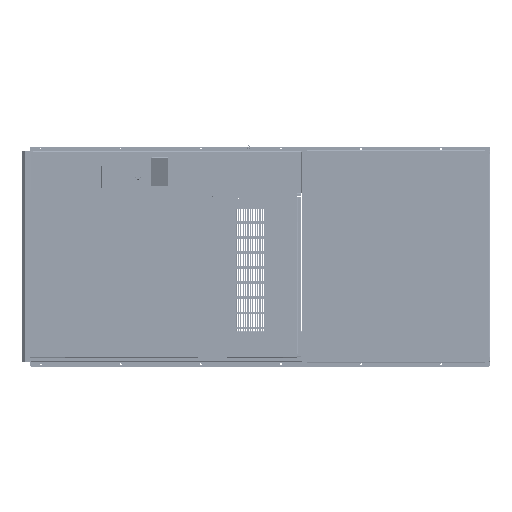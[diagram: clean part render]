
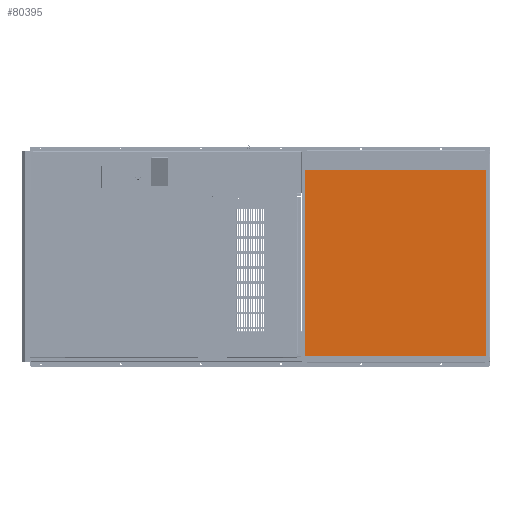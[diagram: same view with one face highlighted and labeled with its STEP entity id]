
A CAD part, left-side view. The second image highlights one B-rep face of the part: STEP entity #80395.
In plain terms, the highlighted planar face has unit normal (-1, 0, 0) as drawn and (0, 0, 1) by its records, which use the part's own axes.
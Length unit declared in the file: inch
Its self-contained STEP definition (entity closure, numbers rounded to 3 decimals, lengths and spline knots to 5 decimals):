
#6522 = ORIENTED_EDGE ( 'NONE', *, *, #22248, .T. ) ;
#14162 = CARTESIAN_POINT ( 'NONE',  ( -6.8619, 42.36062, 0. ) ) ;
#17598 = CARTESIAN_POINT ( 'NONE',  ( -24.9334, 5.28762, 0. ) ) ;
#21811 = CARTESIAN_POINT ( 'NONE',  ( -6.8619, 5.28762, 0. ) ) ;
#22248 = EDGE_CURVE ( 'NONE', #215706, #76082, #42152, .T. ) ;
#22320 = ORIENTED_EDGE ( 'NONE', *, *, #265540, .T. ) ;
#39192 = VERTEX_POINT ( 'NONE', #76867 ) ;
#42152 = LINE ( 'NONE', #14162, #81327 ) ;
#43323 = EDGE_LOOP ( 'NONE', ( #6522, #79475, #261229, #22320 ) ) ;
#63504 = CARTESIAN_POINT ( 'NONE',  ( 11.2096, 42.36062, 0. ) ) ;
#76082 = VERTEX_POINT ( 'NONE', #107429 ) ;
#76867 = CARTESIAN_POINT ( 'NONE',  ( 11.2096, 5.28762, 0. ) ) ;
#78832 = AXIS2_PLACEMENT_3D ( 'NONE', #63504, #87134, #178670 ) ;
#79475 = ORIENTED_EDGE ( 'NONE', *, *, #103033, .T. ) ;
#80395 = ADVANCED_FACE ( 'NONE', ( #245190 ), #265890, .T. ) ;
#81327 = VECTOR ( 'NONE', #222353, 39.37008 ) ;
#87134 = DIRECTION ( 'NONE',  ( 0., 0., 1. ) ) ;
#98898 = EDGE_CURVE ( 'NONE', #120511, #39192, #178287, .T. ) ;
#103033 = EDGE_CURVE ( 'NONE', #76082, #120511, #275167, .T. ) ;
#107429 = CARTESIAN_POINT ( 'NONE',  ( -24.9334, 42.36062, 0. ) ) ;
#120511 = VERTEX_POINT ( 'NONE', #17598 ) ;
#127156 = VECTOR ( 'NONE', #278434, 39.37008 ) ;
#145092 = CARTESIAN_POINT ( 'NONE',  ( -24.9334, 23.82412, 0. ) ) ;
#145466 = CARTESIAN_POINT ( 'NONE',  ( 11.2096, 23.82412, 0. ) ) ;
#163937 = VECTOR ( 'NONE', #268402, 39.37008 ) ;
#164318 = DIRECTION ( 'NONE',  ( 0., -1., 0. ) ) ;
#178287 = LINE ( 'NONE', #21811, #163937 ) ;
#178670 = DIRECTION ( 'NONE',  ( -1., 0., 0. ) ) ;
#210476 = LINE ( 'NONE', #145466, #127156 ) ;
#215706 = VERTEX_POINT ( 'NONE', #283219 ) ;
#222353 = DIRECTION ( 'NONE',  ( -1., 0., 0. ) ) ;
#245190 = FACE_OUTER_BOUND ( 'NONE', #43323, .T. ) ;
#261229 = ORIENTED_EDGE ( 'NONE', *, *, #98898, .T. ) ;
#265540 = EDGE_CURVE ( 'NONE', #39192, #215706, #210476, .T. ) ;
#265890 = PLANE ( 'NONE',  #78832 ) ;
#268402 = DIRECTION ( 'NONE',  ( 1., 0., 0. ) ) ;
#275167 = LINE ( 'NONE', #145092, #280415 ) ;
#278434 = DIRECTION ( 'NONE',  ( 0., 1., 0. ) ) ;
#280415 = VECTOR ( 'NONE', #164318, 39.37008 ) ;
#283219 = CARTESIAN_POINT ( 'NONE',  ( 11.2096, 42.36062, 0. ) ) ;
